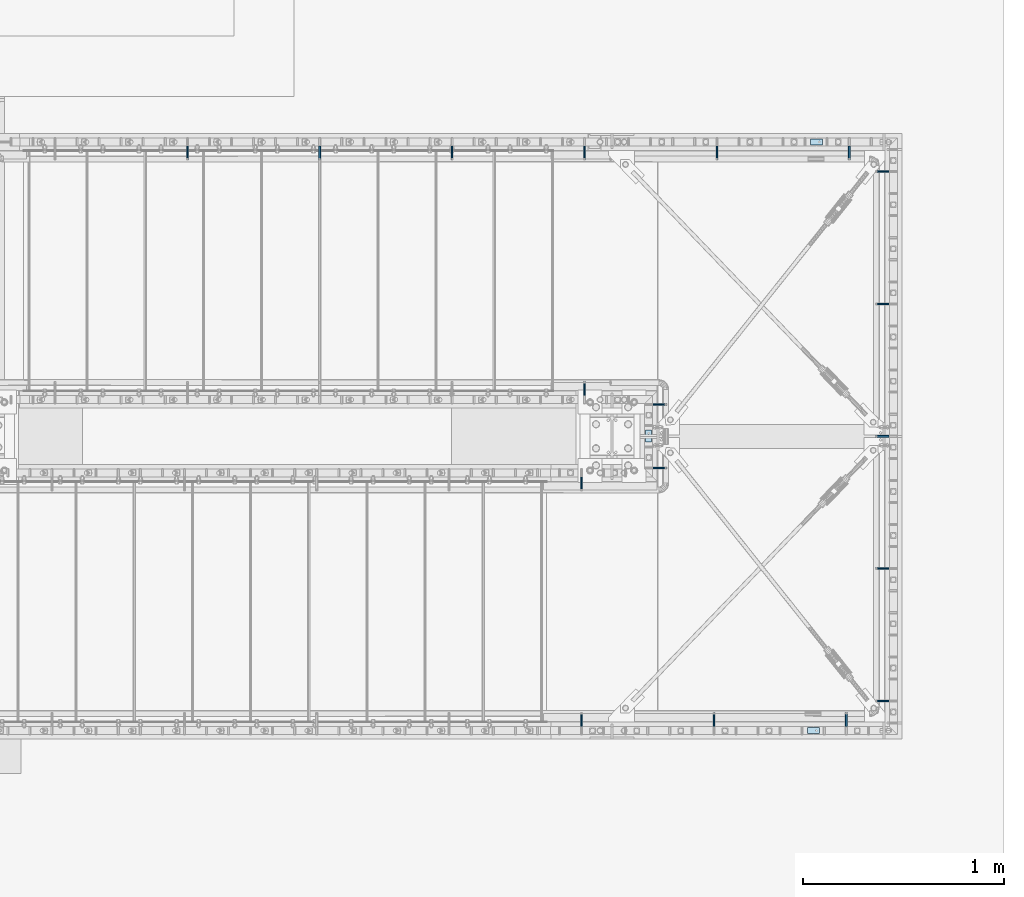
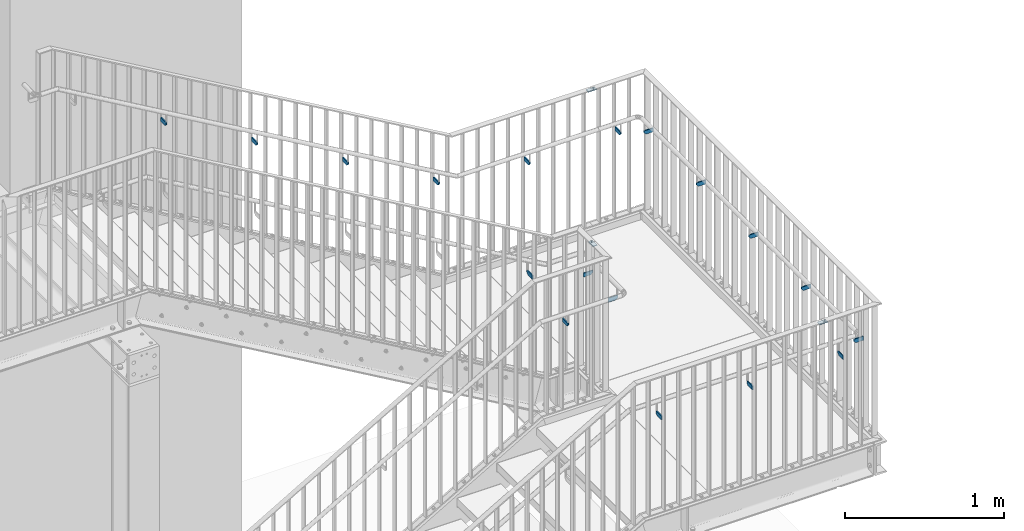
# One storey, part 27 of 145: 21 plates, 21 openings.
"""IFC2X3 building model written with IfcOpenShell, lengths in millimetres."""

from ifc_helpers import new_model, entity, si_unit, converted_unit, frame, origin, origin_with_axes, origin_2d_with_axis, place, context, project, spatial, polyline, circle, outline, extrude, material, layer, layer_set, element, save


model = new_model("IFC2X3")

# Units and contexts
model_context = context("Model", 3, precision=1e-09, world=origin_with_axes())
ifc_project = project(units=[si_unit("LENGTHUNIT", "METRE", prefix="MILLI"), si_unit("AREAUNIT", "SQUARE_METRE"), si_unit("VOLUMEUNIT", "CUBIC_METRE"), converted_unit("PLANEANGLEUNIT", "DEGREE", entity("IfcPlaneAngleMeasure", 0.01745329), si_unit("PLANEANGLEUNIT", "RADIAN"), dimensions=[0, 0, 0, 0, 0, 0, 0])], contexts=[model_context])

# Site, building, storey
site_placement = place(None, origin_with_axes())
site = spatial("IfcSite", under=ifc_project, at=site_placement, Name="BZ1 Grund- und Mittelschule 85716 Unterschlei?heim", CompositionType="ELEMENT")
building_placement = place(site_placement, origin_with_axes())
building = spatial("IfcBuilding", under=site, at=building_placement, Name="Struktur 1", CompositionType="ELEMENT")
storey_placement = place(building_placement, origin_with_axes())
storey = spatial("IfcBuildingStorey", under=building, at=storey_placement, Name="Default Storey", CompositionType="ELEMENT", Elevation=0.0)

# Plate, opening
ifc_material = material(Name="S235JR")
ifc_layer_1 = layer(ifc_material, 8.0)
ifc_layer_set_1 = layer_set([ifc_layer_1], Name="S235JR")
plate_1_placement = place(None, frame((20062.545893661, -1932.002, 2308.636364), z_axis=(1.0, 0.0, 0.0), x_axis=(0.0, 1.0, 0.0)))
plate_1 = element("IfcPlate", 1, at=plate_1_placement, inside=storey, material=ifc_layer_set_1, Name="-", ObjectType="-", context=model_context, shape_type="SweptSolid", body=[
    extrude(outline(polyline([(-34.5, -15.0), (34.5, -15.0), (34.5, 15.0), (-34.5, 15.0), (-34.5, -15.0)])), origin_with_axes(), (0.0, 0.0, -1.0), 8.0),
])
opening_1_placement = place(plate_1_placement, frame((-34.5, -15.0, 0.01), z_axis=(0.0, 0.0, 1.0), x_axis=(1.0, 0.0, 0.0)))
element("IfcOpeningElement", 2, at=opening_1_placement, cuts=plate_1, ObjectType="Opening", context=model_context, shape_type="SweptSolid", body=[
    extrude(outline(polyline([(0.0, 0.0), (15.0, 0.0), (0.0, 15.0), (0.0, 0.0)])), origin(), (0.0, 0.0, -1.0), 8.02),
])

plate_2_placement = place(None, frame((20722.545893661, -3108.002, 2308.636364), z_axis=(-1.0, 0.0, 0.0), x_axis=(0.0, -1.0, 0.0)))
plate_2 = element("IfcPlate", 3, at=plate_2_placement, inside=storey, material=ifc_layer_set_1, Name="-", ObjectType="-", context=model_context, shape_type="SweptSolid", body=[
    extrude(outline(polyline([(-34.5, -15.0), (34.5, -15.0), (34.5, 15.0), (-34.5, 15.0), (-34.5, -15.0)])), origin_with_axes(), (0.0, 0.0, 1.0), 8.0),
])
opening_2_placement = place(plate_2_placement, frame((0.0, 0.0, -0.01), z_axis=(0.0, 0.0, 1.0), x_axis=(1.0, 0.0, 0.0)))
element("IfcOpeningElement", 4, at=opening_2_placement, cuts=plate_2, ObjectType="Opening", context=model_context, shape_type="SweptSolid", body=[
    extrude(outline(polyline([(-34.5, -15.0), (-19.5, -15.0), (-34.5, 0.0), (-34.5, -15.0)])), origin(), (0.0, 0.0, 1.0), 8.02),
])

plate_3_placement = place(None, frame((18089.141490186, -282.006106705, 3535.560110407), z_axis=(1.0, 0.0, 0.0), x_axis=(0.0, 1.0, 0.0)))
plate_3 = element("IfcPlate", 5, at=plate_3_placement, inside=storey, material=ifc_layer_set_1, Name="-", ObjectType="-", context=model_context, shape_type="SweptSolid", body=[
    extrude(outline(polyline([(-34.5, -15.0), (34.5, -15.0), (34.5, 15.0), (-34.5, 15.0), (-34.5, -15.0)])), origin_with_axes(), (0.0, 0.0, 1.0), 8.0),
])
opening_3_placement = place(plate_3_placement, frame((0.0, 0.0, -0.01), z_axis=(0.0, 0.0, 1.0), x_axis=(1.0, 0.0, 0.0)))
element("IfcOpeningElement", 6, at=opening_3_placement, cuts=plate_3, ObjectType="Opening", context=model_context, shape_type="SweptSolid", body=[
    extrude(outline(polyline([(-34.5, -15.0), (-19.5, -15.0), (-34.5, 0.0), (-34.5, -15.0)])), origin(), (0.0, 0.0, 1.0), 8.02),
])

plate_4_placement = place(None, frame((18749.141490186, -282.006106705, 3151.767006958), z_axis=(1.0, 0.0, 0.0), x_axis=(0.0, 1.0, 0.0)))
plate_4 = element("IfcPlate", 7, at=plate_4_placement, inside=storey, material=ifc_layer_set_1, Name="-", ObjectType="-", context=model_context, shape_type="SweptSolid", body=[
    extrude(outline(polyline([(-34.5, -15.0), (34.5, -15.0), (34.5, 15.0), (-34.5, 15.0), (-34.5, -15.0)])), origin_with_axes(), (0.0, 0.0, 1.0), 8.0),
])
opening_4_placement = place(plate_4_placement, frame((0.0, 0.0, -0.01), z_axis=(0.0, 0.0, 1.0), x_axis=(1.0, 0.0, 0.0)))
element("IfcOpeningElement", 8, at=opening_4_placement, cuts=plate_4, ObjectType="Opening", context=model_context, shape_type="SweptSolid", body=[
    extrude(outline(polyline([(-34.5, -15.0), (-19.5, -15.0), (-34.5, 0.0), (-34.5, -15.0)])), origin(), (0.0, 0.0, 1.0), 8.02),
])

plate_5_placement = place(None, frame((19409.141490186, -282.006106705, 2767.97390351), z_axis=(1.0, 0.0, 0.0), x_axis=(0.0, 1.0, 0.0)))
plate_5 = element("IfcPlate", 9, at=plate_5_placement, inside=storey, material=ifc_layer_set_1, Name="-", ObjectType="-", context=model_context, shape_type="SweptSolid", body=[
    extrude(outline(polyline([(-34.5, -15.0), (34.5, -15.0), (34.5, 15.0), (-34.5, 15.0), (-34.5, -15.0)])), origin_with_axes(), (0.0, 0.0, 1.0), 8.0),
])
opening_5_placement = place(plate_5_placement, frame((0.0, 0.0, -0.01), z_axis=(0.0, 0.0, 1.0), x_axis=(1.0, 0.0, 0.0)))
element("IfcOpeningElement", 10, at=opening_5_placement, cuts=plate_5, ObjectType="Opening", context=model_context, shape_type="SweptSolid", body=[
    extrude(outline(polyline([(-34.5, -15.0), (-19.5, -15.0), (-34.5, 0.0), (-34.5, -15.0)])), origin(), (0.0, 0.0, 1.0), 8.02),
])

plate_6_placement = place(None, frame((20737.141490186, -282.002, 2308.636364), z_axis=(1.0, 0.0, 0.0), x_axis=(0.0, 1.0, 0.0)))
plate_6 = element("IfcPlate", 11, at=plate_6_placement, inside=storey, material=ifc_layer_set_1, Name="-", ObjectType="-", context=model_context, shape_type="SweptSolid", body=[
    extrude(outline(polyline([(-34.5, -15.0), (34.5, -15.0), (34.5, 15.0), (-34.5, 15.0), (-34.5, -15.0)])), origin_with_axes(), (0.0, 0.0, -1.0), 8.0),
])
opening_6_placement = place(plate_6_placement, frame((-34.5, -15.0, 0.01), z_axis=(0.0, 0.0, 1.0), x_axis=(1.0, 0.0, 0.0)))
element("IfcOpeningElement", 12, at=opening_6_placement, cuts=plate_6, ObjectType="Opening", context=model_context, shape_type="SweptSolid", body=[
    extrude(outline(polyline([(0.0, 0.0), (15.0, 0.0), (0.0, 15.0), (0.0, 0.0)])), origin(), (0.0, 0.0, -1.0), 8.02),
])

plate_7_placement = place(None, frame((20069.141490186, -282.006106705, 2384.180800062), z_axis=(1.0, 0.0, 0.0), x_axis=(0.0, 1.0, 0.0)))
plate_7 = element("IfcPlate", 13, at=plate_7_placement, inside=storey, material=ifc_layer_set_1, Name="-", ObjectType="-", context=model_context, shape_type="SweptSolid", body=[
    extrude(outline(polyline([(-34.5, -15.0), (34.5, -15.0), (34.5, 15.0), (-34.5, 15.0), (-34.5, -15.0)])), origin_with_axes(), (0.0, 0.0, 1.0), 8.0),
])
opening_7_placement = place(plate_7_placement, frame((0.0, 0.0, -0.01), z_axis=(0.0, 0.0, 1.0), x_axis=(1.0, 0.0, 0.0)))
element("IfcOpeningElement", 14, at=opening_7_placement, cuts=plate_7, ObjectType="Opening", context=model_context, shape_type="SweptSolid", body=[
    extrude(outline(polyline([(-34.5, -15.0), (-19.5, -15.0), (-34.5, 0.0), (-34.5, -15.0)])), origin(), (0.0, 0.0, 1.0), 8.02),
])

plate_8_placement = place(None, frame((20069.141490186, -1458.006106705, 2384.180800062), z_axis=(-1.0, 0.0, 0.0), x_axis=(0.0, -1.0, 0.0)))
plate_8 = element("IfcPlate", 15, at=plate_8_placement, inside=storey, material=ifc_layer_set_1, Name="-", ObjectType="-", context=model_context, shape_type="SweptSolid", body=[
    extrude(outline(polyline([(-34.5, -15.0), (34.5, -15.0), (34.5, 15.0), (-34.5, 15.0), (-34.5, -15.0)])), origin_with_axes(), (0.0, 0.0, -1.0), 8.0),
])
opening_8_placement = place(plate_8_placement, frame((-34.5, -15.0, 0.01), z_axis=(0.0, 0.0, 1.0), x_axis=(1.0, 0.0, 0.0)))
element("IfcOpeningElement", 16, at=opening_8_placement, cuts=plate_8, ObjectType="Opening", context=model_context, shape_type="SweptSolid", body=[
    extrude(outline(polyline([(0.0, 0.0), (15.0, 0.0), (0.0, 15.0), (0.0, 0.0)])), origin(), (0.0, 0.0, -1.0), 8.02),
])

plate_9_placement = place(None, frame((20447.84472732, -1532.502, 2308.636364), z_axis=(0.0, 1.0, 0.0), x_axis=(-1.0, 0.0, 0.0)))
plate_9 = element("IfcPlate", 17, at=plate_9_placement, inside=storey, material=ifc_layer_set_1, Name="-", ObjectType="-", context=model_context, shape_type="SweptSolid", body=[
    extrude(outline(polyline([(-34.5, -15.0), (34.5, -15.0), (34.5, 15.0), (-34.5, 15.0), (-34.5, -15.0)])), origin_with_axes(), (0.0, 0.0, -1.0), 8.0),
])
opening_9_placement = place(plate_9_placement, frame((-34.5, -15.0, 0.01), z_axis=(0.0, 0.0, 1.0), x_axis=(1.0, 0.0, 0.0)))
element("IfcOpeningElement", 18, at=opening_9_placement, cuts=plate_9, ObjectType="Opening", context=model_context, shape_type="SweptSolid", body=[
    extrude(outline(polyline([(0.0, 0.0), (15.0, 0.0), (0.0, 15.0), (0.0, 0.0)])), origin(), (0.0, 0.0, -1.0), 8.02),
])

plate_10_placement = place(None, frame((20447.84472732, -1849.502, 2308.636364), z_axis=(0.0, 1.0, 0.0), x_axis=(-1.0, 0.0, 0.0)))
plate_10 = element("IfcPlate", 19, at=plate_10_placement, inside=storey, material=ifc_layer_set_1, Name="-", ObjectType="-", context=model_context, shape_type="SweptSolid", body=[
    extrude(outline(polyline([(-34.5, -15.0), (34.5, -15.0), (34.5, 15.0), (-34.5, 15.0), (-34.5, -15.0)])), origin_with_axes(), (0.0, 0.0, -1.0), 8.0),
])
opening_10_placement = place(plate_10_placement, frame((-34.5, -15.0, 0.01), z_axis=(0.0, 0.0, 1.0), x_axis=(1.0, 0.0, 0.0)))
element("IfcOpeningElement", 20, at=opening_10_placement, cuts=plate_10, ObjectType="Opening", context=model_context, shape_type="SweptSolid", body=[
    extrude(outline(polyline([(0.0, 0.0), (15.0, 0.0), (0.0, 15.0), (0.0, 0.0)])), origin(), (0.0, 0.0, -1.0), 8.02),
])

plate_11_placement = place(None, frame((21558.84472732, -1691.002, 2308.636364), z_axis=(0.0, -1.0, 0.0), x_axis=(1.0, 0.0, 0.0)))
plate_11 = element("IfcPlate", 21, at=plate_11_placement, inside=storey, material=ifc_layer_set_1, Name="-", ObjectType="-", context=model_context, shape_type="SweptSolid", body=[
    extrude(outline(polyline([(-34.5, -15.0), (34.5, -15.0), (34.5, 15.0), (-34.5, 15.0), (-34.5, -15.0)])), origin_with_axes(), (0.0, 0.0, 1.0), 8.0),
])
opening_11_placement = place(plate_11_placement, frame((0.0, 0.0, -0.01), z_axis=(0.0, 0.0, 1.0), x_axis=(1.0, 0.0, 0.0)))
element("IfcOpeningElement", 22, at=opening_11_placement, cuts=plate_11, ObjectType="Opening", context=model_context, shape_type="SweptSolid", body=[
    extrude(outline(polyline([(-34.5, -15.0), (-19.5, -15.0), (-34.5, 0.0), (-34.5, -15.0)])), origin(), (0.0, 0.0, 1.0), 8.02),
])

plate_12_placement = place(None, frame((21558.84472732, -2351.002, 2308.636364), z_axis=(0.0, -1.0, 0.0), x_axis=(1.0, 0.0, 0.0)))
plate_12 = element("IfcPlate", 23, at=plate_12_placement, inside=storey, material=ifc_layer_set_1, Name="-", ObjectType="-", context=model_context, shape_type="SweptSolid", body=[
    extrude(outline(polyline([(-34.5, -15.0), (34.5, -15.0), (34.5, 15.0), (-34.5, 15.0), (-34.5, -15.0)])), origin_with_axes(), (0.0, 0.0, 1.0), 8.0),
])
opening_12_placement = place(plate_12_placement, frame((0.0, 0.0, -0.01), z_axis=(0.0, 0.0, 1.0), x_axis=(1.0, 0.0, 0.0)))
element("IfcOpeningElement", 24, at=opening_12_placement, cuts=plate_12, ObjectType="Opening", context=model_context, shape_type="SweptSolid", body=[
    extrude(outline(polyline([(-34.5, -15.0), (-19.5, -15.0), (-34.5, 0.0), (-34.5, -15.0)])), origin(), (0.0, 0.0, 1.0), 8.02),
])

plate_13_placement = place(None, frame((21558.84472732, -3011.002, 2308.636364), z_axis=(0.0, -1.0, 0.0), x_axis=(1.0, 0.0, 0.0)))
plate_13 = element("IfcPlate", 25, at=plate_13_placement, inside=storey, material=ifc_layer_set_1, Name="-", ObjectType="-", context=model_context, shape_type="SweptSolid", body=[
    extrude(outline(polyline([(-34.5, -15.0), (34.5, -15.0), (34.5, 15.0), (-34.5, 15.0), (-34.5, -15.0)])), origin_with_axes(), (0.0, 0.0, 1.0), 8.0),
])
opening_13_placement = place(plate_13_placement, frame((0.0, 0.0, -0.01), z_axis=(0.0, 0.0, 1.0), x_axis=(1.0, 0.0, 0.0)))
element("IfcOpeningElement", 26, at=opening_13_placement, cuts=plate_13, ObjectType="Opening", context=model_context, shape_type="SweptSolid", body=[
    extrude(outline(polyline([(-34.5, -15.0), (-19.5, -15.0), (-34.5, 0.0), (-34.5, -15.0)])), origin(), (0.0, 0.0, 1.0), 8.02),
])

plate_14_placement = place(None, frame((21558.84472732, -1031.002, 2308.636364), z_axis=(0.0, -1.0, 0.0), x_axis=(1.0, 0.0, 0.0)))
plate_14 = element("IfcPlate", 27, at=plate_14_placement, inside=storey, material=ifc_layer_set_1, Name="-", ObjectType="-", context=model_context, shape_type="SweptSolid", body=[
    extrude(outline(polyline([(-34.5, -15.0), (34.5, -15.0), (34.5, 15.0), (-34.5, 15.0), (-34.5, -15.0)])), origin_with_axes(), (0.0, 0.0, 1.0), 8.0),
])
opening_14_placement = place(plate_14_placement, frame((0.0, 0.0, -0.01), z_axis=(0.0, 0.0, 1.0), x_axis=(1.0, 0.0, 0.0)))
element("IfcOpeningElement", 28, at=opening_14_placement, cuts=plate_14, ObjectType="Opening", context=model_context, shape_type="SweptSolid", body=[
    extrude(outline(polyline([(-34.5, -15.0), (-19.5, -15.0), (-34.5, 0.0), (-34.5, -15.0)])), origin(), (0.0, 0.0, 1.0), 8.02),
])

plate_15_placement = place(None, frame((21558.84472732, -371.002, 2308.636364), z_axis=(0.0, -1.0, 0.0), x_axis=(1.0, 0.0, 0.0)))
plate_15 = element("IfcPlate", 29, at=plate_15_placement, inside=storey, material=ifc_layer_set_1, Name="-", ObjectType="-", context=model_context, shape_type="SweptSolid", body=[
    extrude(outline(polyline([(-34.5, -15.0), (34.5, -15.0), (34.5, 15.0), (-34.5, 15.0), (-34.5, -15.0)])), origin_with_axes(), (0.0, 0.0, 1.0), 8.0),
])
opening_15_placement = place(plate_15_placement, frame((0.0, 0.0, -0.01), z_axis=(0.0, 0.0, 1.0), x_axis=(1.0, 0.0, 0.0)))
element("IfcOpeningElement", 30, at=opening_15_placement, cuts=plate_15, ObjectType="Opening", context=model_context, shape_type="SweptSolid", body=[
    extrude(outline(polyline([(-34.5, -15.0), (-19.5, -15.0), (-34.5, 0.0), (-34.5, -15.0)])), origin(), (0.0, 0.0, 1.0), 8.02),
])

plate_16_placement = place(None, frame((21382.545893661, -3108.002, 2308.636364), z_axis=(-1.0, 0.0, 0.0), x_axis=(0.0, -1.0, 0.0)))
plate_16 = element("IfcPlate", 31, at=plate_16_placement, inside=storey, material=ifc_layer_set_1, Name="-", ObjectType="-", context=model_context, shape_type="SweptSolid", body=[
    extrude(outline(polyline([(-34.5, -15.0), (34.5, -15.0), (34.5, 15.0), (-34.5, 15.0), (-34.5, -15.0)])), origin_with_axes(), (0.0, 0.0, 1.0), 8.0),
])
opening_16_placement = place(plate_16_placement, frame((0.0, 0.0, -0.01), z_axis=(0.0, 0.0, 1.0), x_axis=(1.0, 0.0, 0.0)))
element("IfcOpeningElement", 32, at=opening_16_placement, cuts=plate_16, ObjectType="Opening", context=model_context, shape_type="SweptSolid", body=[
    extrude(outline(polyline([(-34.5, -15.0), (-19.5, -15.0), (-34.5, 0.0), (-34.5, -15.0)])), origin(), (0.0, 0.0, 1.0), 8.02),
])

plate_17_placement = place(None, frame((21397.141490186, -282.002, 2308.636364), z_axis=(1.0, 0.0, 0.0), x_axis=(0.0, 1.0, 0.0)))
plate_17 = element("IfcPlate", 33, at=plate_17_placement, inside=storey, material=ifc_layer_set_1, Name="-", ObjectType="-", context=model_context, shape_type="SweptSolid", body=[
    extrude(outline(polyline([(-34.5, -15.0), (34.5, -15.0), (34.5, 15.0), (-34.5, 15.0), (-34.5, -15.0)])), origin_with_axes(), (0.0, 0.0, -1.0), 8.0),
])
opening_17_placement = place(plate_17_placement, frame((-34.5, -15.0, 0.01), z_axis=(0.0, 0.0, 1.0), x_axis=(1.0, 0.0, 0.0)))
element("IfcOpeningElement", 34, at=opening_17_placement, cuts=plate_17, ObjectType="Opening", context=model_context, shape_type="SweptSolid", body=[
    extrude(outline(polyline([(0.0, 0.0), (15.0, 0.0), (0.0, 15.0), (0.0, 0.0)])), origin(), (0.0, 0.0, -1.0), 8.02),
])

ifc_layer_2 = layer(ifc_material, 5.0)
ifc_layer_set_2 = layer_set([ifc_layer_2], Name="S235JR")
plate_18_placement = place(None, frame((21214.545893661, -3162.502, 2650.6363644), z_axis=(0.0, 0.0, 1.0), x_axis=(0.0, -1.0, 0.0)))
plate_18 = element("IfcPlate", 35, at=plate_18_placement, inside=storey, material=ifc_layer_set_2, Name="-", ObjectType="-", context=model_context, shape_type="SweptSolid", body=[
    extrude(outline(polyline([(-15.0, -30.0), (15.0, -30.0), (15.0, 30.0), (-15.0, 30.0), (-15.0, -30.0)])), origin_with_axes(), (0.0, 0.0, 1.0), 5.0),
])
opening_18_placement = place(plate_18_placement, frame((0.0, 15.0, -0.5), z_axis=(0.0, 0.0, 1.0), x_axis=(1.0, 0.0, 0.0)))
element("IfcOpeningElement", 36, at=opening_18_placement, cuts=plate_18, ObjectType="Opening", context=model_context, shape_type="SweptSolid", body=[
    extrude(circle(Radius=4.001, at=origin_2d_with_axis()), origin(), (0.0, 0.0, 1.0), 6.0),
])

plate_19_placement = place(None, frame((21229.141490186, -227.502, 2650.6363644), z_axis=(0.0, 0.0, 1.0), x_axis=(0.0, -1.0, 0.0)))
plate_19 = element("IfcPlate", 37, at=plate_19_placement, inside=storey, material=ifc_layer_set_2, Name="-", ObjectType="-", context=model_context, shape_type="SweptSolid", body=[
    extrude(outline(polyline([(-15.0, -30.0), (15.0, -30.0), (15.0, 30.0), (-15.0, 30.0), (-15.0, -30.0)])), origin_with_axes(), (0.0, 0.0, 1.0), 5.0),
])
opening_19_placement = place(plate_19_placement, frame((0.0, 15.0, -0.5), z_axis=(0.0, 0.0, 1.0), x_axis=(1.0, 0.0, 0.0)))
element("IfcOpeningElement", 38, at=opening_19_placement, cuts=plate_19, ObjectType="Opening", context=model_context, shape_type="SweptSolid", body=[
    extrude(circle(Radius=4.001, at=origin_2d_with_axis()), origin(), (0.0, 0.0, 1.0), 6.0),
])

plate_20_placement = place(None, frame((20062.545893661, -3108.002, 2308.636364), z_axis=(-1.0, 0.0, 0.0), x_axis=(0.0, -1.0, 0.0)))
plate_20 = element("IfcPlate", 39, at=plate_20_placement, inside=storey, material=ifc_layer_set_1, Name="-", ObjectType="-", context=model_context, shape_type="SweptSolid", body=[
    extrude(outline(polyline([(-34.5, -15.0), (34.5, -15.0), (34.5, 15.0), (-34.5, 15.0), (-34.5, -15.0)])), origin_with_axes(), (0.0, 0.0, 1.0), 8.0),
])
opening_20_placement = place(plate_20_placement, frame((0.0, 0.0, -0.01), z_axis=(0.0, 0.0, 1.0), x_axis=(1.0, 0.0, 0.0)))
element("IfcOpeningElement", 40, at=opening_20_placement, cuts=plate_20, ObjectType="Opening", context=model_context, shape_type="SweptSolid", body=[
    extrude(outline(polyline([(-34.5, -15.0), (-19.5, -15.0), (-34.5, 0.0), (-34.5, -15.0)])), origin(), (0.0, 0.0, 1.0), 8.02),
])

plate_21_placement = place(None, frame((20393.34472732, -1694.002, 2650.6363644), z_axis=(0.0, 0.0, 1.0), x_axis=(1.0, 0.0, 0.0)))
plate_21 = element("IfcPlate", 41, at=plate_21_placement, inside=storey, material=ifc_layer_set_2, Name="-", ObjectType="-", context=model_context, shape_type="SweptSolid", body=[
    extrude(outline(polyline([(-15.0, -30.0), (15.0, -30.0), (15.0, 30.0), (-15.0, 30.0), (-15.0, -30.0)])), origin_with_axes(), (0.0, 0.0, 1.0), 5.0),
])
opening_21_placement = place(plate_21_placement, frame((0.0, 15.0, -0.5), z_axis=(0.0, 0.0, 1.0), x_axis=(1.0, 0.0, 0.0)))
element("IfcOpeningElement", 42, at=opening_21_placement, cuts=plate_21, ObjectType="Opening", context=model_context, shape_type="SweptSolid", body=[
    extrude(circle(Radius=4.001, at=origin_2d_with_axis()), origin(), (0.0, 0.0, 1.0), 6.0),
])

save(model, "model.ifc")
